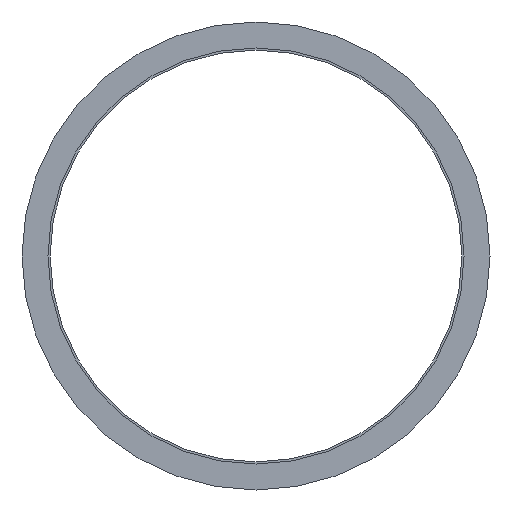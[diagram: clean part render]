
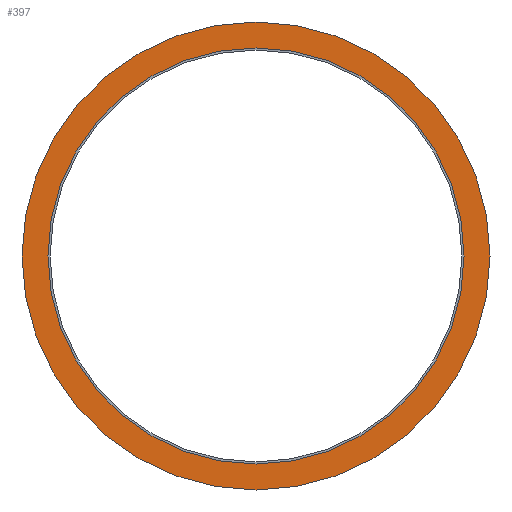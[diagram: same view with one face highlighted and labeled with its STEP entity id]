
A CAD part, front view. The second image highlights one B-rep face of the part: STEP entity #397.
In plain terms, the highlighted planar face has unit normal (0, -1, 0).
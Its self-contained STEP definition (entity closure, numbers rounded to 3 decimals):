
#1 = AXIS2_PLACEMENT_3D ( 'NONE', #336, #7, #141 ) ;
#7 = DIRECTION ( 'NONE',  ( 0., 1., 0. ) ) ;
#26 = CARTESIAN_POINT ( 'NONE',  ( 0., 0., 0. ) ) ;
#47 = ORIENTED_EDGE ( 'NONE', *, *, #216, .F. ) ;
#51 = CARTESIAN_POINT ( 'NONE',  ( 0., 0., 0. ) ) ;
#64 = FACE_OUTER_BOUND ( 'NONE', #330, .T. ) ;
#98 = VERTEX_POINT ( 'NONE', #161 ) ;
#103 = AXIS2_PLACEMENT_3D ( 'NONE', #455, #581, #162 ) ;
#110 = DIRECTION ( 'NONE',  ( 0., 0., -1. ) ) ;
#113 = CIRCLE ( 'NONE', #103, 200.05 ) ;
#132 = VERTEX_POINT ( 'NONE', #255 ) ;
#139 = VERTEX_POINT ( 'NONE', #584 ) ;
#141 = DIRECTION ( 'NONE',  ( 0., 0., 1. ) ) ;
#161 = CARTESIAN_POINT ( 'NONE',  ( 0., 0., -200.05 ) ) ;
#162 = DIRECTION ( 'NONE',  ( 0., 0., -1. ) ) ;
#216 = EDGE_CURVE ( 'NONE', #98, #139, #366, .T. ) ;
#222 = DIRECTION ( 'NONE',  ( 0., 0., -1. ) ) ;
#224 = CIRCLE ( 'NONE', #314, 225. ) ;
#234 = ORIENTED_EDGE ( 'NONE', *, *, #568, .T. ) ;
#242 = ORIENTED_EDGE ( 'NONE', *, *, #470, .T. ) ;
#255 = CARTESIAN_POINT ( 'NONE',  ( 0., 0., 225. ) ) ;
#291 = FACE_BOUND ( 'NONE', #579, .T. ) ;
#313 = CARTESIAN_POINT ( 'NONE',  ( 0., 0., 0. ) ) ;
#314 = AXIS2_PLACEMENT_3D ( 'NONE', #26, #549, #222 ) ;
#323 = CIRCLE ( 'NONE', #537, 225. ) ;
#326 = DIRECTION ( 'NONE',  ( 0., -1., 0. ) ) ;
#328 = CARTESIAN_POINT ( 'NONE',  ( 0., 0., -225. ) ) ;
#330 = EDGE_LOOP ( 'NONE', ( #234, #242 ) ) ;
#336 = CARTESIAN_POINT ( 'NONE',  ( 0., 0., 225. ) ) ;
#366 = CIRCLE ( 'NONE', #599, 200.05 ) ;
#395 = PLANE ( 'NONE',  #1 ) ;
#397 = ADVANCED_FACE ( 'NONE', ( #291, #64 ), #395, .F. ) ;
#455 = CARTESIAN_POINT ( 'NONE',  ( 0., 0., 0. ) ) ;
#458 = EDGE_CURVE ( 'NONE', #139, #98, #113, .T. ) ;
#465 = DIRECTION ( 'NONE',  ( 0., 0., -1. ) ) ;
#470 = EDGE_CURVE ( 'NONE', #132, #571, #323, .T. ) ;
#537 = AXIS2_PLACEMENT_3D ( 'NONE', #313, #591, #110 ) ;
#549 = DIRECTION ( 'NONE',  ( 0., -1., 0. ) ) ;
#568 = EDGE_CURVE ( 'NONE', #571, #132, #224, .T. ) ;
#571 = VERTEX_POINT ( 'NONE', #328 ) ;
#579 = EDGE_LOOP ( 'NONE', ( #47, #608 ) ) ;
#581 = DIRECTION ( 'NONE',  ( 0., -1., 0. ) ) ;
#584 = CARTESIAN_POINT ( 'NONE',  ( 0., 0., 200.05 ) ) ;
#591 = DIRECTION ( 'NONE',  ( 0., -1., 0. ) ) ;
#599 = AXIS2_PLACEMENT_3D ( 'NONE', #51, #326, #465 ) ;
#608 = ORIENTED_EDGE ( 'NONE', *, *, #458, .F. ) ;
